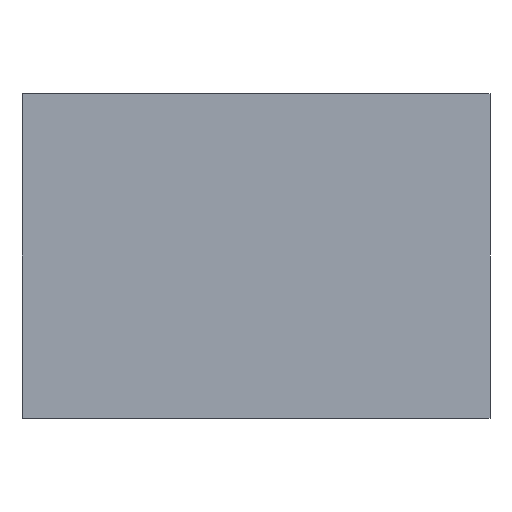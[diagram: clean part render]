
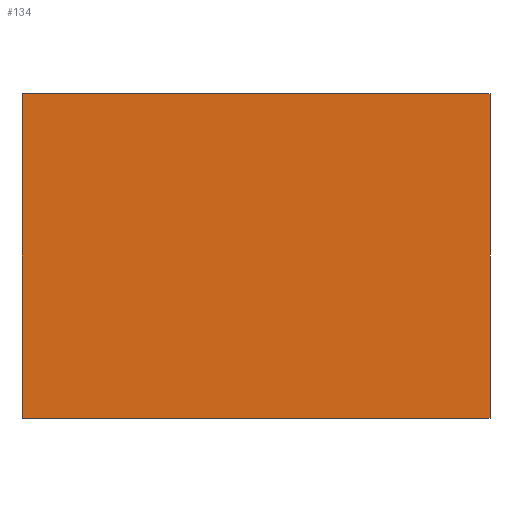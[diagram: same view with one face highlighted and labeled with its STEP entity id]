
A CAD part, left-side view. The second image highlights one B-rep face of the part: STEP entity #134.
In plain terms, the highlighted planar face has unit normal (-1, 0, 0).
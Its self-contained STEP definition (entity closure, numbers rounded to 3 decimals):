
#23 = VERTEX_POINT ( 'NONE', #847 ) ;
#44 = CARTESIAN_POINT ( 'NONE',  ( -56., 35.5, 49.3 ) ) ;
#93 = LINE ( 'NONE', #1018, #1032 ) ;
#113 = PLANE ( 'NONE',  #260 ) ;
#134 = ADVANCED_FACE ( 'NONE', ( #287 ), #113, .F. ) ;
#201 = VERTEX_POINT ( 'NONE', #298 ) ;
#228 = VERTEX_POINT ( 'NONE', #407 ) ;
#252 = VECTOR ( 'NONE', #475, 1000. ) ;
#253 = ORIENTED_EDGE ( 'NONE', *, *, #954, .F. ) ;
#260 = AXIS2_PLACEMENT_3D ( 'NONE', #453, #281, #869 ) ;
#269 = CARTESIAN_POINT ( 'NONE',  ( -56., -35.5, 49.3 ) ) ;
#281 = DIRECTION ( 'NONE',  ( 1., 0., 0. ) ) ;
#282 = EDGE_CURVE ( 'NONE', #201, #23, #1022, .T. ) ;
#287 = FACE_OUTER_BOUND ( 'NONE', #781, .T. ) ;
#298 = CARTESIAN_POINT ( 'NONE',  ( -56., 35.5, 0. ) ) ;
#385 = ORIENTED_EDGE ( 'NONE', *, *, #282, .T. ) ;
#407 = CARTESIAN_POINT ( 'NONE',  ( -56., -35.5, 49.3 ) ) ;
#453 = CARTESIAN_POINT ( 'NONE',  ( -56., 35.5, 49.3 ) ) ;
#475 = DIRECTION ( 'NONE',  ( 0., 0., -1. ) ) ;
#501 = ORIENTED_EDGE ( 'NONE', *, *, #1023, .T. ) ;
#529 = LINE ( 'NONE', #269, #986 ) ;
#618 = VERTEX_POINT ( 'NONE', #44 ) ;
#631 = CARTESIAN_POINT ( 'NONE',  ( -56., 35.5, 49.3 ) ) ;
#760 = LINE ( 'NONE', #631, #252 ) ;
#765 = VECTOR ( 'NONE', #911, 1000. ) ;
#781 = EDGE_LOOP ( 'NONE', ( #385, #253, #814, #501 ) ) ;
#814 = ORIENTED_EDGE ( 'NONE', *, *, #945, .F. ) ;
#847 = CARTESIAN_POINT ( 'NONE',  ( -56., -35.5, 0. ) ) ;
#869 = DIRECTION ( 'NONE',  ( 0., 0., -1. ) ) ;
#911 = DIRECTION ( 'NONE',  ( 0., -1., 0. ) ) ;
#937 = DIRECTION ( 'NONE',  ( 0., 0., -1. ) ) ;
#945 = EDGE_CURVE ( 'NONE', #618, #228, #93, .T. ) ;
#954 = EDGE_CURVE ( 'NONE', #228, #23, #529, .T. ) ;
#956 = DIRECTION ( 'NONE',  ( 0., -1., 0. ) ) ;
#986 = VECTOR ( 'NONE', #937, 1000. ) ;
#1018 = CARTESIAN_POINT ( 'NONE',  ( -56., 35.5, 49.3 ) ) ;
#1022 = LINE ( 'NONE', #1050, #765 ) ;
#1023 = EDGE_CURVE ( 'NONE', #618, #201, #760, .T. ) ;
#1032 = VECTOR ( 'NONE', #956, 1000. ) ;
#1050 = CARTESIAN_POINT ( 'NONE',  ( -56., 35.5, 0. ) ) ;
